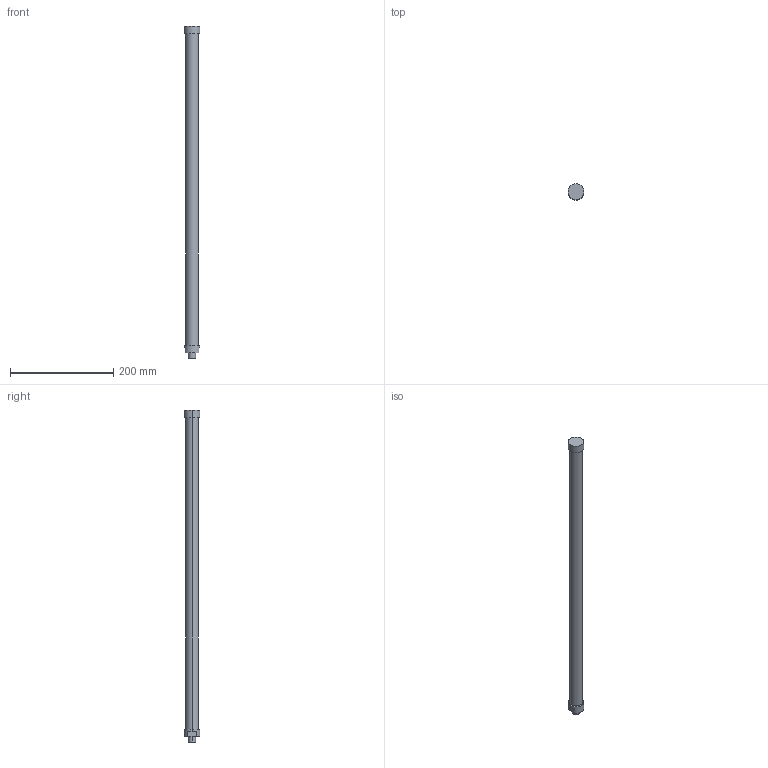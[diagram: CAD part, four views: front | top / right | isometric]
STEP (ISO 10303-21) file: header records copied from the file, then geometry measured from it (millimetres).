
FILE_DESCRIPTION(('STEP AP214'),'1');
FILE_NAME('C:/Users/Autocad/Desktop/L644-C390S1-FN.stp','2014-02-10T10:58:54',(' '),(' '),'Spatial InterOp 3D',' ',' ');
FILE_SCHEMA(('automotive_design'));
Length unit declared in the file: metre
Products named in the file (2): 1; 2
Bounding box: 31 x 31 x 644 mm (x, y, z)
Volume: 319701.9 mm3; surface area: 53404.9 mm2
Topology: 1 solids, 4 shells, 23 faces, 54 edges, 40 vertices
Faces by surface type: cylinder 12, plane 11
Entity records: 916 total; most frequent: DIRECTION 136, CARTESIAN_POINT 119, ORIENTED_EDGE 96, AXIS2_PLACEMENT_3D 57, EDGE_CURVE 54, VERTEX_POINT 40, CIRCLE 32, EDGE_LOOP 28
